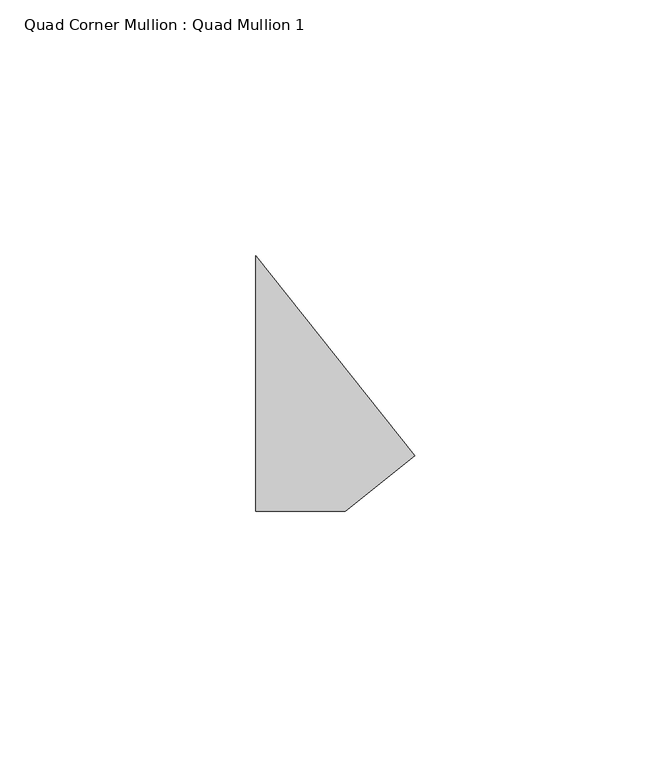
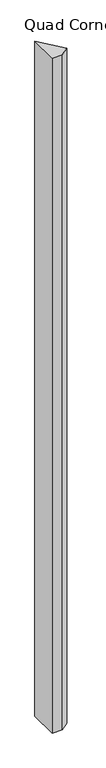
"""IFC4 building model written with IfcOpenShell, lengths in millimetres: member geometry, Quad Corner Mullion : Quad Mullion 1."""

from ifc_helpers import new_model, si_unit, frame, origin, place, context, project, spatial, polyline, outline, extrude, source, transform, mapped, element, save


def quad_corner_mullion_quad_mullion_1_ceac3540(model_context):
    return source(origin(), model_context, "Body", "SweptSolid", [
        extrude(outline(polyline([(22.4169637, -14.1035695), (8.7424787, -25.0), (-8.7424787, -25.0), (-8.7424787, 25.0), (22.4169637, -14.1035695)])), frame((0.0, 0.0, -1200.0), z_axis=(0.0, 0.0, 1.0), x_axis=(1.0, 0.0, 0.0)), (0.0, 0.0, 1.0), 1200.0),
    ])


if __name__ == "__main__":
    model = new_model("IFC4")
    model_context = context("Model", 3, world=origin())
    ifc_project = project(units=[si_unit("LENGTHUNIT", "METRE", prefix="MILLI")], contexts=[model_context])
    site = spatial("IfcSite", under=ifc_project)
    building = spatial("IfcBuilding", under=site)
    placement = place(None, origin())
    quad_corner_mullion_quad_mullion_1_shape = quad_corner_mullion_quad_mullion_1_ceac3540(model_context)
    element("IfcMember", 1, ObjectType="Quad Corner Mullion : Quad Mullion 1", at=placement, inside=building, context=model_context, shape_type="MappedRepresentation", body=[
        mapped(quad_corner_mullion_quad_mullion_1_shape, transform((0.0, 0.0, 0.0), x_axis=(1.0, 0.0, 0.0), y_axis=(0.0, 1.0, 0.0), z_axis=(0.0, 0.0, 1.0))),
    ])
    save(model, "model.ifc")
